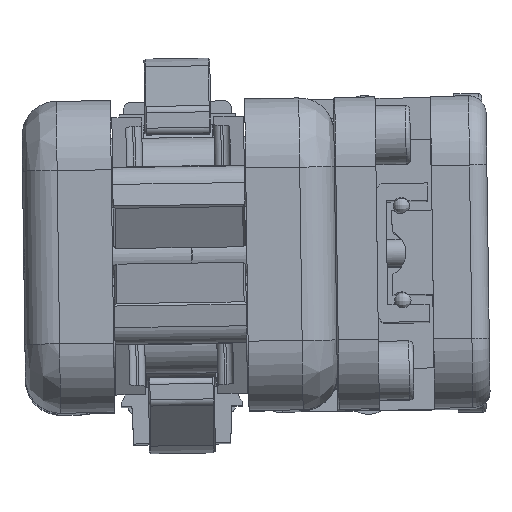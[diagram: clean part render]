
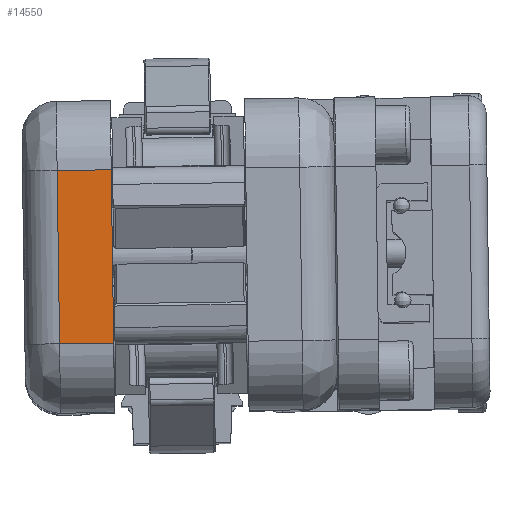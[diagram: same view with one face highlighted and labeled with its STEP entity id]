
A CAD part, top view. The second image highlights one B-rep face of the part: STEP entity #14550.
In plain terms, the highlighted planar face has unit normal (0, 0, 1).
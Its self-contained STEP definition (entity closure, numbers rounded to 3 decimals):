
#552=LINE('',#37911,#2086);
#553=LINE('',#37914,#2087);
#554=LINE('',#37916,#2088);
#555=LINE('',#37918,#2089);
#2086=VECTOR('',#31299,1.);
#2087=VECTOR('',#31300,1.);
#2088=VECTOR('',#31301,1.);
#2089=VECTOR('',#31302,1.);
#12140=FACE_OUTER_BOUND('',#17172,.T.);
#12903=PLANE('',#28683);
#14550=ADVANCED_FACE('',(#12140),#12903,.F.);
#17172=EDGE_LOOP('',(#19287,#19288,#19289,#19290));
#19287=ORIENTED_EDGE('',*,*,#26137,.T.);
#19288=ORIENTED_EDGE('',*,*,#26138,.T.);
#19289=ORIENTED_EDGE('',*,*,#26139,.T.);
#19290=ORIENTED_EDGE('',*,*,#26140,.T.);
#24267=VERTEX_POINT('',#37912);
#24268=VERTEX_POINT('',#37913);
#24269=VERTEX_POINT('',#37915);
#24270=VERTEX_POINT('',#37917);
#26137=EDGE_CURVE('',#24267,#24268,#552,.T.);
#26138=EDGE_CURVE('',#24268,#24269,#553,.T.);
#26139=EDGE_CURVE('',#24269,#24270,#554,.T.);
#26140=EDGE_CURVE('',#24270,#24267,#555,.T.);
#28683=AXIS2_PLACEMENT_3D('',#37919,#31303,#31304);
#31299=DIRECTION('',(0.014,-1.,0.));
#31300=DIRECTION('',(1.,0.014,0.));
#31301=DIRECTION('',(-0.014,1.,0.));
#31302=DIRECTION('',(-1.,-0.014,0.));
#31303=DIRECTION('',(0.,0.,-1.));
#31304=DIRECTION('',(0.014,-1.,0.));
#37911=CARTESIAN_POINT('',(-17.182,-22.744,282.));
#37912=CARTESIAN_POINT('',(-17.674,12.253,282.));
#37913=CARTESIAN_POINT('',(-17.322,-12.745,282.));
#37914=CARTESIAN_POINT('',(-22.322,-12.815,282.));
#37915=CARTESIAN_POINT('',(-9.523,-12.635,282.));
#37916=CARTESIAN_POINT('',(-10.016,22.361,282.));
#37917=CARTESIAN_POINT('',(-9.875,12.362,282.));
#37918=CARTESIAN_POINT('',(-22.674,12.182,282.));
#37919=CARTESIAN_POINT('',(-22.814,22.181,282.));
